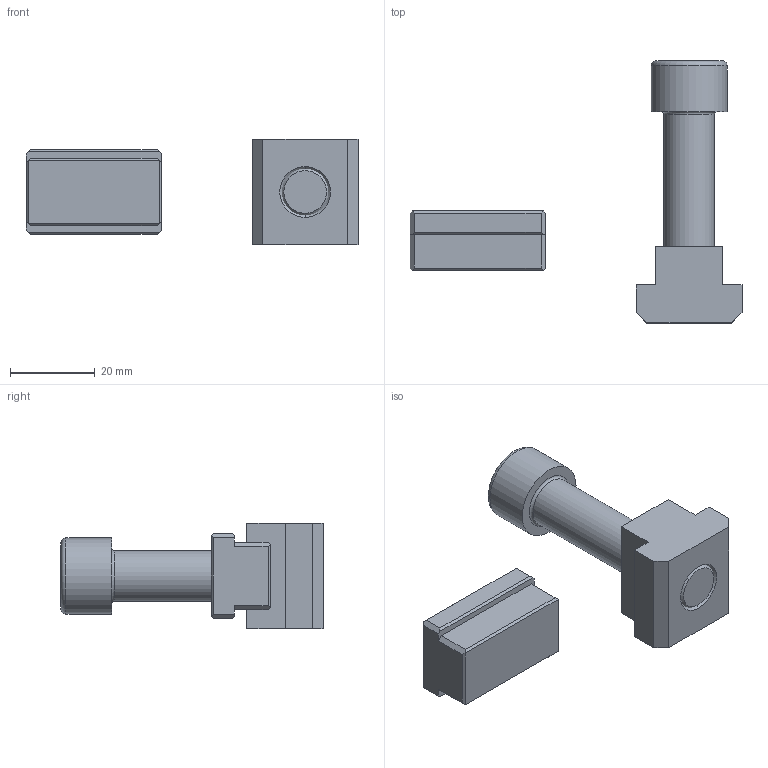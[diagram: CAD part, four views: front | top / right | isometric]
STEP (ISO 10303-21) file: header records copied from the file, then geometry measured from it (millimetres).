
FILE_DESCRIPTION (( 'STEP AP214' ), '1' );
FILE_NAME ('6921545612031.STEP', '2018-08-06T10:15:18', ( '' ), ( '' ), 'SwSTEP 2.0', 'SolidWorks 2016', '' );
FILE_SCHEMA (( 'AUTOMOTIVE_DESIGN' ));
Length unit declared in the file: millimetre
Products named in the file (4): 8006101250050_DIN 912 M12 x 50 --- 50N; 6934701009100; 8158000021005; 6921545612031
Assembly tree (3 placements, depth 2):
  6921545612031
    8006101250050_DIN 912 M12 x 50 --- 50N
    6934701009100
    8158000021005
Bounding box: 78.5 x 62 x 25 mm (x, y, z)
Volume: 23419.8 mm3; surface area: 8963.5 mm2
Topology: 3 solids, 3 shells, 67 faces, 159 edges, 99 vertices
Faces by surface type: plane 55, cone 6, cylinder 4, torus 2
Full cylindrical faces by diameter (mm): 12 x1, 18 x1
Entity records: 2211 total; most frequent: CARTESIAN_POINT 339, DIRECTION 312, ORIENTED_EDGE 302, EDGE_CURVE 151, LINE 124, VECTOR 124, VERTEX_POINT 97, AXIS2_PLACEMENT_3D 94
